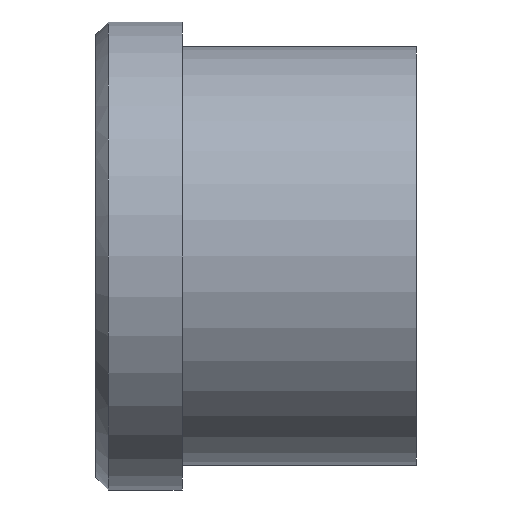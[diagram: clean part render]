
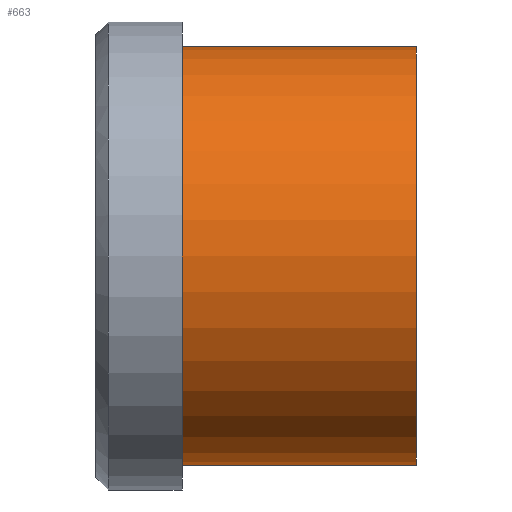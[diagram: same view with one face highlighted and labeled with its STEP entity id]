
A CAD part, front view. The second image highlights one B-rep face of the part: STEP entity #663.
In plain terms, the highlighted cylindrical face has radius 17 mm (diameter 34 mm), a partial arc.
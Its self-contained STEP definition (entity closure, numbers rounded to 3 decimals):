
#501=CARTESIAN_POINT('Vertex',(0.,0.,-17.)) ;
#506=CARTESIAN_POINT('Axis2P3D Location',(0.,0.,0.)) ;
#510=CARTESIAN_POINT('Vertex',(0.,-17.,0.)) ;
#513=CARTESIAN_POINT('Axis2P3D Location',(0.,0.,0.)) ;
#517=CARTESIAN_POINT('Vertex',(0.,0.,17.)) ;
#603=CARTESIAN_POINT('Line Origine',(19.,0.,17.)) ;
#607=CARTESIAN_POINT('Vertex',(19.,0.,17.)) ;
#621=CARTESIAN_POINT('Vertex',(19.,0.,-17.)) ;
#624=CARTESIAN_POINT('Line Origine',(19.,0.,-17.)) ;
#638=CARTESIAN_POINT('Axis2P3D Location',(19.,0.,0.)) ;
#643=CARTESIAN_POINT('Axis2P3D Location',(19.,0.,0.)) ;
#647=CARTESIAN_POINT('Vertex',(19.,-17.,0.)) ;
#650=CARTESIAN_POINT('Axis2P3D Location',(19.,0.,0.)) ;
#507=DIRECTION('Axis2P3D Direction',(1.,0.,-0.)) ;
#514=DIRECTION('Axis2P3D Direction',(1.,0.,-0.)) ;
#604=DIRECTION('Vector Direction',(-1.,0.,0.)) ;
#625=DIRECTION('Vector Direction',(-1.,0.,0.)) ;
#639=DIRECTION('Axis2P3D Direction',(-1.,-0.,-0.)) ;
#640=DIRECTION('Axis2P3D XDirection',(0.,0.,-1.)) ;
#644=DIRECTION('Axis2P3D Direction',(-1.,-0.,-0.)) ;
#651=DIRECTION('Axis2P3D Direction',(-1.,-0.,-0.)) ;
#508=AXIS2_PLACEMENT_3D('Circle Axis2P3D',#506,#507,$) ;
#515=AXIS2_PLACEMENT_3D('Circle Axis2P3D',#513,#514,$) ;
#641=AXIS2_PLACEMENT_3D('Cylinder Axis2P3D',#638,#639,#640) ;
#645=AXIS2_PLACEMENT_3D('Circle Axis2P3D',#643,#644,$) ;
#652=AXIS2_PLACEMENT_3D('Circle Axis2P3D',#650,#651,$) ;
#656=ORIENTED_EDGE('',*,*,#628,.T.) ;
#657=ORIENTED_EDGE('',*,*,#649,.F.) ;
#658=ORIENTED_EDGE('',*,*,#654,.F.) ;
#659=ORIENTED_EDGE('',*,*,#609,.T.) ;
#660=ORIENTED_EDGE('',*,*,#519,.T.) ;
#661=ORIENTED_EDGE('',*,*,#512,.T.) ;
#605=VECTOR('Line Direction',#604,1.) ;
#626=VECTOR('Line Direction',#625,1.) ;
#663=ADVANCED_FACE('353-25X26',(#662),#642,.T.) ;
#509=CIRCLE('generated circle',#508,17.) ;
#516=CIRCLE('generated circle',#515,17.) ;
#646=CIRCLE('generated circle',#645,17.) ;
#653=CIRCLE('generated circle',#652,17.) ;
#642=CYLINDRICAL_SURFACE('generated cylinder',#641,17.) ;
#512=EDGE_CURVE('',#511,#502,#509,.T.) ;
#519=EDGE_CURVE('',#518,#511,#516,.T.) ;
#609=EDGE_CURVE('',#608,#518,#606,.T.) ;
#628=EDGE_CURVE('',#502,#622,#627,.F.) ;
#649=EDGE_CURVE('',#648,#622,#646,.F.) ;
#654=EDGE_CURVE('',#608,#648,#653,.F.) ;
#655=EDGE_LOOP('',(#656,#657,#658,#659,#660,#661)) ;
#662=FACE_OUTER_BOUND('',#655,.T.) ;
#606=LINE('Line',#603,#605) ;
#627=LINE('Line',#624,#626) ;
#502=VERTEX_POINT('',#501) ;
#511=VERTEX_POINT('',#510) ;
#518=VERTEX_POINT('',#517) ;
#608=VERTEX_POINT('',#607) ;
#622=VERTEX_POINT('',#621) ;
#648=VERTEX_POINT('',#647) ;
